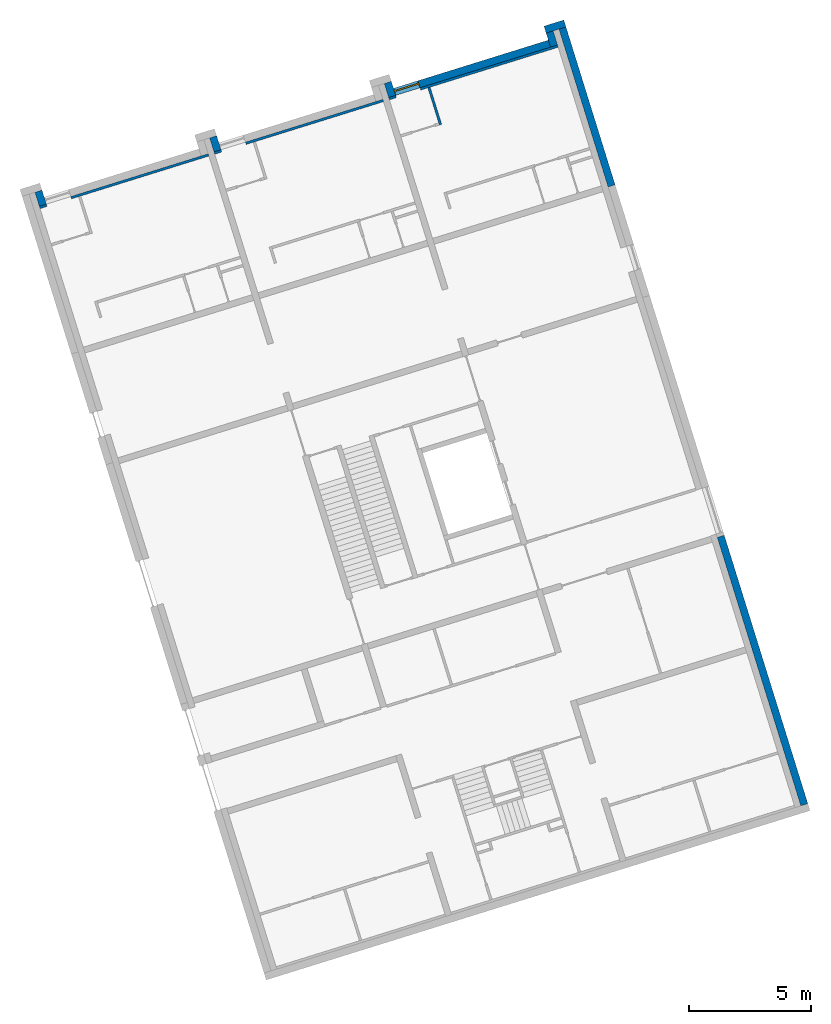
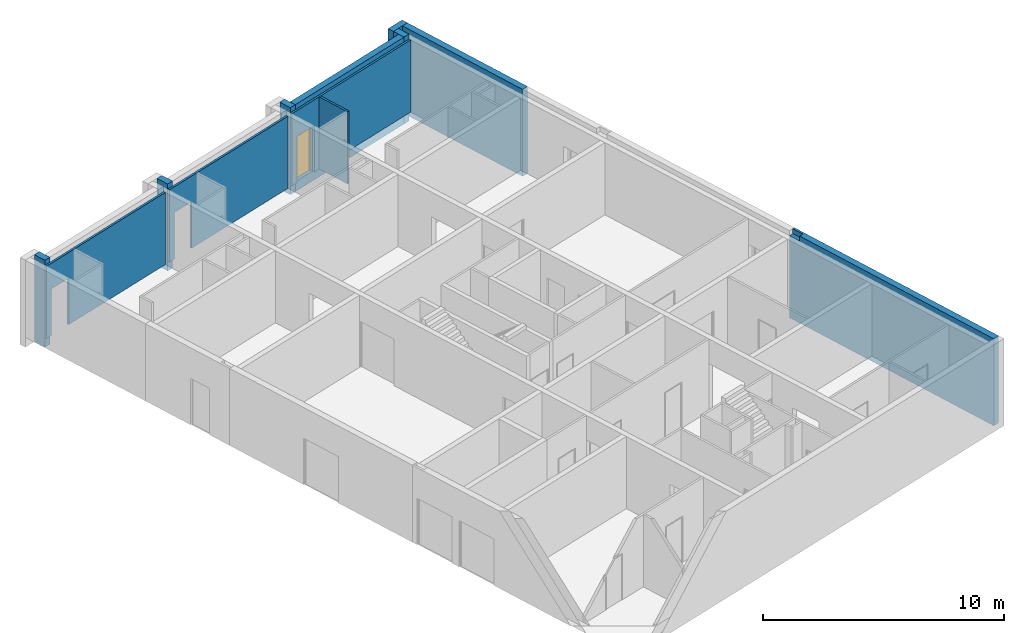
# One storey, part 6 of 10: 12 walls, 1 door, 7 openings.
"""IFC4 building model written with IfcOpenShell, lengths in metres."""

from ifc_helpers import new_model, entity, si_unit, converted_unit, direction, frame, origin, place, context, subcontext, project, spatial, indexed_curve, outline, extrude, polygons, source, transform, mapped, material, constituent, constituent_set, type_object, type_shapes, element, fill, save


model = new_model("IFC4")

# Units and contexts
model_context = context("Model", 3, precision=1e-05, world=origin(), true_north=direction((6.12323399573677e-17, 1.0)))
body_context = subcontext(model_context, "Body", "Model", "MODEL_VIEW")
ifc_project = project(units=[si_unit("LENGTHUNIT", "METRE"), si_unit("AREAUNIT", "SQUARE_METRE"), converted_unit("PLANEANGLEUNIT", "DEGREE", entity("IfcPlaneAngleMeasure", 0.0174532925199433), si_unit("PLANEANGLEUNIT", "RADIAN"), dimensions=[0, 0, 0, 0, 0, 0, 0]), si_unit("VOLUMEUNIT", "CUBIC_METRE")], contexts=[model_context])

# Site, building, storey
site_placement = place(None, frame((13.1347999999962, 11.9886000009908, 0.0), z_axis=(0.0, 0.0, 1.0), x_axis=(0.954770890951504, 0.297342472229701, 0.0)))
site = spatial("IfcSite", under=ifc_project, at=site_placement, Name="Schiehaven", CompositionType="ELEMENT")
building_placement = place(site_placement, origin())
building = spatial("IfcBuilding", under=site, at=building_placement, Name="VORM huis", CompositionType="ELEMENT")
storey_placement = place(building_placement, origin())
storey = spatial("IfcBuildingStorey", under=building, at=storey_placement, Name="00 begane grond", CompositionType="ELEMENT", Elevation=0.0)

# Wall, opening
ifc_material_1 = material(Name="ntb_ntb_ntb", Category="Miscellaneous")
wall_type_1 = type_object("IfcWallType", Name="Basic Wall:21_WA_gevel_binnenspouwwand 100mm_gen", PredefinedType="STANDARD")
wall_1_placement = place(storey_placement, frame((57.6250000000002, 33.0749999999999, 0.0)))
wall_1 = element("IfcWall", 1, at=wall_1_placement, inside=storey, type_object=wall_type_1, material=ifc_material_1, Name="Binnenspouwblad", ObjectType="Wand", PredefinedType="NOTDEFINED", context=body_context, shape_type="Tessellation", body=[
    polygons([(7.24999999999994, -0.0500000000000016, 0.0), (7.24999999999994, -0.0500000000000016, 3.65), (-4.02773066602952e-15, -0.0499999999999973, 3.65), (-4.02773066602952e-15, -0.0499999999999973, 0.0), (0.299999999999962, -0.0499999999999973, 0.0), (0.299999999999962, -0.0499999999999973, 2.34999999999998), (1.34999999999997, -0.0500000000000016, 2.34999999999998), (1.34999999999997, -0.0500000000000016, 0.0), (7.24999999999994, 0.0499999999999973, 3.65), (7.24999999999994, 0.0499999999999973, 0.0), (1.34999999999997, 0.0499999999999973, 0.0), (1.34999999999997, 0.0499999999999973, 2.34999999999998), (0.299999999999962, 0.0500000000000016, 2.34999999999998), (0.299999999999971, 0.0500000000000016, 0.0), (-4.30224119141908e-15, 0.0500000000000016, 0.0), (-4.30224119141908e-15, 0.0500000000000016, 3.65)], [[[1, 2, 3, 4, 5, 6, 7, 8]], [[9, 10, 11, 12, 13, 14, 15, 16]], [[4, 15, 14, 5]], [[2, 1, 10, 9]], [[3, 2, 9, 16]], [[4, 3, 16, 15]], [[13, 6, 5, 14]], [[7, 12, 11, 8]], [[6, 13, 12, 7]], [[10, 1, 8, 11]]], closed=True),
])
opening_1_placement = place(wall_1_placement, origin())
element("IfcOpeningElement", 2, at=opening_1_placement, cuts=wall_1, Name="Woningtoegangsdeur", PredefinedType="OPENING", context=body_context, shape_type="SweptSolid", body=[
    extrude(outline(indexed_curve([(-0.525000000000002, -1.17499999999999), (0.525000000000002, -1.17499999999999), (0.525000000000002, 1.17499999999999), (-0.525000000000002, 1.17499999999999), (-0.525000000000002, -1.17499999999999)], self_intersect=False)), frame((0.824999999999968, -1.474, 1.17499999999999), z_axis=(0.0, 1.0, 0.0), x_axis=(1.0, 0.0, 0.0)), (0.0, 0.0, 1.0), 3.048),
])

wall_2_placement = place(storey_placement, frame((72.3750000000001, 33.0749999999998, 0.0), z_axis=(0.0, 0.0, 1.0), x_axis=(-1.0, 0.0, 0.0)))
wall_2 = element("IfcWall", 3, at=wall_2_placement, inside=storey, type_object=wall_type_1, material=ifc_material_1, Name="Binnenspouwblad", ObjectType="Wand", PredefinedType="NOTDEFINED", context=body_context, shape_type="Tessellation", body=[
    polygons([(7.24999999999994, -0.0500000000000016, 0.0), (7.24999999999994, -0.0500000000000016, 3.65), (-2.558479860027e-15, -0.0499999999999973, 3.65), (-2.558479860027e-15, -0.0499999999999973, 0.0), (5.8999999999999, -0.0500000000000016, 0.0), (5.8999999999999, -0.0500000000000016, 2.34999999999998), (6.9499999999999, -0.0500000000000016, 2.34999999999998), (6.9499999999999, -0.0500000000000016, 0.0), (7.24999999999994, 0.0500000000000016, 3.65), (7.24999999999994, 0.0500000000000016, 0.0), (6.9499999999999, 0.0500000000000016, 0.0), (6.9499999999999, 0.0500000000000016, 2.34999999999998), (5.8999999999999, 0.0500000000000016, 2.34999999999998), (5.8999999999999, 0.0500000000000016, 0.0), (-2.5246038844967e-15, 0.050000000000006, 0.0), (-2.5246038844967e-15, 0.050000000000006, 3.65)], [[[1, 2, 3, 4, 5, 6, 7, 8]], [[9, 10, 11, 12, 13, 14, 15, 16]], [[4, 15, 14, 5]], [[2, 1, 10, 9]], [[3, 2, 9, 16]], [[4, 3, 16, 15]], [[7, 12, 11, 8]], [[13, 6, 5, 14]], [[12, 7, 6, 13]], [[10, 1, 8, 11]]], closed=True),
])
opening_2_placement = place(wall_2_placement, origin())
element("IfcOpeningElement", 4, at=opening_2_placement, cuts=wall_2, Name="Woningtoegangsdeur", PredefinedType="OPENING", context=body_context, shape_type="SweptSolid", body=[
    extrude(outline(indexed_curve([(-1.17499999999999, -0.525000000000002), (1.17499999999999, -0.525000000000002), (1.17499999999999, 0.525000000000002), (-1.17499999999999, 0.525000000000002), (-1.17499999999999, -0.525000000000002)], self_intersect=False)), frame((6.42499999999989, -1.57400000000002, 1.17499999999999), z_axis=(0.0, 1.0, 0.0), x_axis=(0.0, 0.0, -1.0)), (0.0, 0.0, 1.0), 3.048),
])

wall_3_placement = place(storey_placement, frame((72.6250000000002, 33.0749999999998, 0.0)))
wall_3 = element("IfcWall", 5, at=wall_3_placement, inside=storey, type_object=wall_type_1, material=ifc_material_1, Name="Binnenspouwblad", ObjectType="Wand", PredefinedType="NOTDEFINED", context=body_context, shape_type="Tessellation", body=[
    polygons([(7.24999999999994, -0.0499999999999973, 0.0), (7.24999999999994, -0.0499999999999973, 3.65), (4.63520636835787e-15, -0.049999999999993, 3.65), (4.63520636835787e-15, -0.049999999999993, 0.0), (0.299999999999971, -0.049999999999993, 0.0), (0.299999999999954, -0.049999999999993, 2.34999999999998), (1.34999999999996, -0.0499999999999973, 2.34999999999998), (1.34999999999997, -0.0499999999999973, 0.0), (7.24999999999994, 0.050000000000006, 3.65), (7.24999999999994, 0.050000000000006, 0.0), (1.34999999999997, 0.0499999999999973, 0.0), (1.34999999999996, 0.0499999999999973, 2.34999999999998), (0.299999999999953, 0.0500000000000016, 2.34999999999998), (0.299999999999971, 0.0500000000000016, 0.0), (4.36069584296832e-15, 0.0500000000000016, 0.0), (4.36069584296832e-15, 0.0500000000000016, 3.65)], [[[1, 2, 3, 4, 5, 6, 7, 8]], [[9, 10, 11, 12, 13, 14, 15, 16]], [[4, 15, 14, 5]], [[2, 1, 10, 9]], [[3, 2, 9, 16]], [[4, 3, 16, 15]], [[13, 6, 5, 14]], [[7, 12, 11, 8]], [[6, 13, 12, 7]], [[10, 1, 8, 11]]], closed=True),
])
opening_3_placement = place(wall_3_placement, origin())
element("IfcOpeningElement", 6, at=opening_3_placement, cuts=wall_3, Name="Woningtoegangsdeur", PredefinedType="OPENING", context=body_context, shape_type="SweptSolid", body=[
    extrude(outline(indexed_curve([(-0.525000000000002, -1.17499999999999), (0.525000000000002, -1.17499999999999), (0.525000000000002, 1.17499999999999), (-0.525000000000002, 1.17499999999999), (-0.525000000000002, -1.17499999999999)], self_intersect=False)), frame((0.824999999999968, -1.47399999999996, 1.17499999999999), z_axis=(0.0, 1.0, 0.0), x_axis=(1.0, 0.0, 0.0)), (0.0, 0.0, 1.0), 3.048),
])

# Walls
wall_type_2 = type_object("IfcWallType", Name="Basic Wall: 300mm_gen", PredefinedType="STANDARD")
wall_4_placement = place(storey_placement, frame((80.2750000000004, 0.375000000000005, -0.5), z_axis=(0.0, 0.0, 1.0), x_axis=(0.0, 1.0, 0.0)))
element("IfcWall", 7, at=wall_4_placement, inside=storey, type_object=wall_type_2, material=ifc_material_1, Name="Gevelwand", ObjectType="Wand", PredefinedType="NOTDEFINED", context=body_context, shape_type="Tessellation", body=[
    polygons([(3.88578058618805e-16, -0.149999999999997, 0.0), (11.525, -0.149999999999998, 0.0), (11.525, -0.149999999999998, 4.4), (4.44089209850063e-16, -0.149999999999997, 4.4), (11.525, 0.15, 0.0), (6.10622663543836e-16, 0.15, 0.0), (6.10622663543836e-16, 0.15, 0.5), (6.10622663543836e-16, 0.15, 4.15), (2.77555756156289e-16, 0.15, 4.4), (10.95, 0.150000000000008, 4.4), (10.95, 0.150000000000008, 4.15), (11.525, 0.15, 4.15), (11.525, -0.0500000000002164, 4.15), (11.525, -0.0500000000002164, 4.4), (10.95, -0.0500000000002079, 4.4), (10.95, -0.0500000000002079, 4.15)], [[[1, 2, 3, 4]], [[5, 6, 7, 8, 9, 10, 11, 12]], [[2, 1, 6, 5]], [[3, 2, 5, 12, 13, 14]], [[4, 3, 14, 15, 10, 9]], [[11, 16, 13, 12]], [[15, 16, 11, 10]], [[16, 15, 14, 13]], [[1, 4, 9, 8, 7, 6]]], closed=True),
])
wall_5_placement = place(storey_placement, frame((80.275, 26.95, -0.5), z_axis=(0.0, 0.0, 1.0), x_axis=(0.0, 1.0, 0.0)))
element("IfcWall", 8, at=wall_5_placement, inside=storey, type_object=wall_type_2, material=ifc_material_1, Name="Gevelwand", ObjectType="Wand", PredefinedType="NOTDEFINED", context=body_context, shape_type="SweptSolid", body=[
    extrude(outline(indexed_curve([(6.77499999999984, 0.150000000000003), (-2.07973037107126e-15, 0.150000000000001), (2.07973037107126e-15, -0.150000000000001), (6.77499999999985, -0.149999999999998), (6.77499999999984, 0.150000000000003)], self_intersect=False)), origin(), (0.0, 0.0, 1.0), 4.4),
])

# Wall, opening
wall_6_placement = place(storey_placement, frame((57.7750000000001, 33.1249999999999, -0.5), z_axis=(0.0, 0.0, 1.0), x_axis=(0.0, 1.0, 0.0)))
wall_6 = element("IfcWall", 9, at=wall_6_placement, inside=storey, type_object=wall_type_2, material=ifc_material_1, Name="Gevelwand", ObjectType="Wand", PredefinedType="NOTDEFINED", context=body_context, shape_type="Tessellation", body=[
    polygons([(-4.33146851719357e-15, -0.150000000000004, 0.0), (0.300000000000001, -0.150000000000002, 0.0), (0.599999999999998, -0.15, 0.0), (0.599999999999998, -0.15, 4.4), (0.300000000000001, -0.150000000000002, 4.4), (-4.33146851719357e-15, -0.150000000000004, 4.4), (0.0, -0.150000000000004, 2.84999999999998), (0.0, -0.150000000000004, 0.5), (-4.33146851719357e-15, 0.149999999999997, 0.0), (-4.33146851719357e-15, 0.149999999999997, 4.4), (0.599999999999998, 0.150000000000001, 4.4), (0.599999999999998, 0.150000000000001, 0.0)], [[[1, 2, 3, 4, 5, 6, 7, 8]], [[9, 10, 11, 12]], [[3, 2, 1, 9, 12]], [[6, 5, 4, 11, 10]], [[4, 3, 12, 11]], [[1, 8, 7, 6, 10, 9]]], closed=True),
])
opening_4_placement = place(wall_6_placement, origin())
element("IfcOpeningElement", 10, at=opening_4_placement, cuts=wall_6, Name="Woningtoegangsdeur", PredefinedType="OPENING", context=body_context, shape_type="SweptSolid", body=[
    extrude(outline(indexed_curve([(-0.150000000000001, -1.17499999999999), (0.150000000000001, -1.17499999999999), (0.150000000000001, 1.17499999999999), (-0.150000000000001, 1.17499999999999), (-0.150000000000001, -1.17499999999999)], self_intersect=False)), frame((0.150000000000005, -1.2, 1.67499999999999), z_axis=(0.0, 1.0, 0.0), x_axis=(1.0, 0.0, 0.0)), (0.0, 0.0, 1.0), 1.05),
])

wall_7_placement = place(storey_placement, frame((65.2750000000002, 33.1249999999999, -0.5), z_axis=(0.0, 0.0, 1.0), x_axis=(0.0, 1.0, 0.0)))
wall_7 = element("IfcWall", 11, at=wall_7_placement, inside=storey, type_object=wall_type_2, material=ifc_material_1, Name="Gevelwand", ObjectType="Wand", PredefinedType="NOTDEFINED", context=body_context, shape_type="Tessellation", body=[
    polygons([(0.0, -0.150000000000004, 0.0), (0.300000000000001, -0.150000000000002, 0.0), (0.600000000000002, -0.15, 0.0), (0.600000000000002, -0.15, 4.4), (0.300000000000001, -0.150000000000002, 4.4), (0.0, -0.150000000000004, 4.4), (0.0, -0.150000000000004, 2.84999999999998), (0.0, -0.150000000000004, 0.5), (0.0, 0.149999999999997, 0.0), (0.0, 0.149999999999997, 4.4), (0.600000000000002, 0.150000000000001, 4.4), (0.600000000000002, 0.150000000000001, 0.0)], [[[1, 2, 3, 4, 5, 6, 7, 8]], [[9, 10, 11, 12]], [[3, 2, 1, 9, 12]], [[6, 5, 4, 11, 10]], [[4, 3, 12, 11]], [[1, 8, 7, 6, 10, 9]]], closed=True),
])
opening_5_placement = place(wall_7_placement, origin())
element("IfcOpeningElement", 12, at=opening_5_placement, cuts=wall_7, Name="Woningtoegangsdeur", PredefinedType="OPENING", context=body_context, shape_type="SweptSolid", body=[
    extrude(outline(indexed_curve([(-0.150000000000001, -1.17499999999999), (0.150000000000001, -1.17499999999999), (0.150000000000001, 1.17499999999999), (-0.150000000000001, 1.17499999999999), (-0.150000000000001, -1.17499999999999)], self_intersect=False)), frame((0.150000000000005, -1.19999999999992, 1.67499999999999), z_axis=(0.0, 1.0, 0.0), x_axis=(1.0, 0.0, 0.0)), (0.0, 0.0, 1.0), 1.05),
])

wall_8_placement = place(storey_placement, frame((72.7750000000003, 33.1249999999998, -0.5), z_axis=(0.0, 0.0, 1.0), x_axis=(0.0, 1.0, 0.0)))
wall_8 = element("IfcWall", 13, at=wall_8_placement, inside=storey, type_object=wall_type_2, material=ifc_material_1, Name="Gevelwand", ObjectType="Wand", PredefinedType="NOTDEFINED", context=body_context, shape_type="Tessellation", body=[
    polygons([(4.33146851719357e-15, -0.150000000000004, 0.0), (0.300000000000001, -0.150000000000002, 0.0), (0.600000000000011, -0.15, 0.0), (0.600000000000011, -0.15, 4.4), (0.300000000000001, -0.150000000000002, 4.4), (4.33146851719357e-15, -0.150000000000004, 4.4), (0.0, -0.150000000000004, 2.84999999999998), (0.0, -0.150000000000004, 0.5), (4.33146851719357e-15, 0.149999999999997, 0.0), (4.33146851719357e-15, 0.149999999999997, 4.4), (0.600000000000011, 0.150000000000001, 4.4), (0.600000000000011, 0.150000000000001, 0.0)], [[[1, 2, 3, 4, 5, 6, 7, 8]], [[9, 10, 11, 12]], [[3, 2, 1, 9, 12]], [[6, 5, 4, 11, 10]], [[4, 3, 12, 11]], [[1, 8, 7, 6, 10, 9]]], closed=True),
])
opening_6_placement = place(wall_8_placement, origin())
element("IfcOpeningElement", 14, at=opening_6_placement, cuts=wall_8, Name="Woningtoegangsdeur", PredefinedType="OPENING", context=body_context, shape_type="SweptSolid", body=[
    extrude(outline(indexed_curve([(-0.150000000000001, -1.17499999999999), (0.150000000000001, -1.17499999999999), (0.150000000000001, 1.17499999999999), (-0.150000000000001, 1.17499999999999), (-0.150000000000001, -1.17499999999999)], self_intersect=False)), frame((0.150000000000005, -1.19999999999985, 1.67499999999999), z_axis=(0.0, 1.0, 0.0), x_axis=(1.0, 0.0, 0.0)), (0.0, 0.0, 1.0), 1.05),
])

# Wall
wall_9_placement = place(storey_placement, frame((79.7250000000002, 33.7249999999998, -0.5), z_axis=(0.0, 0.0, 1.0), x_axis=(0.0, -1.0, 0.0)))
element("IfcWall", 15, at=wall_9_placement, inside=storey, type_object=wall_type_2, material=ifc_material_1, Name="Gevelwand", ObjectType="Wand", PredefinedType="NOTDEFINED", context=body_context, shape_type="SweptSolid", body=[
    extrude(outline(indexed_curve([(0.60000000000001, 0.150000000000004), (-9.66298299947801e-16, 0.150000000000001), (9.66298299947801e-16, -0.150000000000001), (0.600000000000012, -0.149999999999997), (0.60000000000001, 0.150000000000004)], self_intersect=False)), origin(), (0.0, 0.0, 1.0), 4.4),
])

# Wall, opening, door
wall_10_placement = place(storey_placement, frame((79.5750000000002, 33.2749999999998, -0.5), z_axis=(0.0, 0.0, 1.0), x_axis=(-1.0, 0.0, 0.0)))
wall_10 = element("IfcWall", 16, at=wall_10_placement, inside=storey, type_object=wall_type_2, material=ifc_material_1, Name="Gevelwand", ObjectType="Wand", PredefinedType="NOTDEFINED", context=body_context, shape_type="Tessellation", body=[
    polygons([(5.27465413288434e-15, -0.150000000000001, 0.0), (6.64999999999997, -0.150000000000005, 0.0), (6.64999999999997, -0.150000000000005, 0.5), (5.60000000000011, -0.150000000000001, 0.5), (5.60000000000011, -0.150000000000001, 2.84999999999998), (6.64999999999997, -0.150000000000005, 2.84999999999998), (6.64999999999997, -0.150000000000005, 4.4), (5.27465413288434e-15, -0.150000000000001, 4.4), (6.64999999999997, 0.149999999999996, 0.0), (4.29428107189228e-15, 0.150000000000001, 0.0), (4.29428107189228e-15, 0.150000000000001, 4.4), (6.64999999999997, 0.149999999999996, 4.4), (6.64999999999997, 0.149999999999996, 2.84999999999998), (5.60000000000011, 0.150000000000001, 2.84999999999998), (5.60000000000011, 0.150000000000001, 0.5), (6.64999999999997, 0.149999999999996, 0.5)], [[[1, 2, 3, 4, 5, 6, 7, 8]], [[9, 10, 11, 12, 13, 14, 15, 16]], [[2, 1, 10, 9]], [[8, 7, 12, 11]], [[1, 8, 11, 10]], [[2, 9, 16, 3]], [[15, 4, 3, 16]], [[4, 15, 14, 5]], [[5, 14, 13, 6]], [[12, 7, 6, 13]]], closed=True),
])
opening_7_placement = place(wall_10_placement, frame((6.65000000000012, 0.149999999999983, 0.5)))
opening_7 = element("IfcOpeningElement", 17, at=opening_7_placement, cuts=wall_10, Name="Woningtoegangsdeur", PredefinedType="OPENING", context=body_context, shape_type="SweptSolid", body=[
    extrude(outline(indexed_curve([(2.34999999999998, -5.52923834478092e-32), (2.34999999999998, 1.05), (0.0, 1.05), (0.0, -5.52923834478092e-32), (2.34999999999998, -5.52923834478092e-32)], self_intersect=False)), frame((0.0, 0.0, 0.0), z_axis=(0.0, -1.0, 0.0), x_axis=(0.0, 0.0, 1.0)), (0.0, 0.0, 1.0), 0.3),
])
ifc_material_2 = material(Name="PD_a_buitenwandopeningen", Category="Miscellaneous")
ifc_constituent_1 = constituent(ifc_material_2, Name="PD_a_buitenwandopeningen", Category="Miscellaneous")
ifc_material_3 = material(Name="metaal_aluminium_ntb", Category="Miscellaneous")
ifc_constituent_2 = constituent(ifc_material_3, Name="metaal_aluminium_ntb", Category="Miscellaneous")
ifc_constituent_set_1 = constituent_set(constituents=[ifc_constituent_1, ifc_constituent_2])
ifc_constituent_3 = constituent(ifc_material_2, Name="PD_a_buitenwandopeningen", Category="Miscellaneous")
ifc_constituent_4 = constituent(ifc_material_3, Name="Panel", Category="Miscellaneous")
ifc_constituent_set_2 = constituent_set(constituents=[ifc_constituent_3, ifc_constituent_4])
door_type = type_object("IfcDoorType", Name="31_DO_buitendeur enkel:woningtoegangsdeur", OperationType="REVOLVING", PredefinedType="DOOR", material=ifc_constituent_set_2)
shared_shape = source(origin(), body_context, "Body", "SweptSolid", [
    extrude(outline(indexed_curve([(0.475, -1.16249999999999), (0.525000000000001, -1.16249999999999), (0.525000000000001, 1.18749999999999), (-0.525000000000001, 1.18749999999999), (-0.525000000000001, -1.16249999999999), (-0.475, -1.16249999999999), (-0.475, 1.13749999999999), (0.475, 1.13749999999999), (0.475, -1.16249999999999)], self_intersect=False)), frame((0.525000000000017, 0.230000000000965, 1.16249999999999), z_axis=(0.0, -1.0, 0.0), x_axis=(1.0, 0.0, 0.0)), (0.0, 0.0, 1.0), 0.1),
    extrude(outline(indexed_curve([(-0.475, -0.025), (0.475, -0.025), (0.475, 0.025), (-0.475, 0.025), (-0.475, -0.025)], self_intersect=False)), frame((0.525000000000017, 0.180000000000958, 0.0)), (0.0, 0.0, 1.0), 2.29999999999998),
])
type_shapes(door_type, [shared_shape])
door_placement = place(opening_7_placement, frame((0.0, 0.0, 0.0), z_axis=(0.0, 0.0, 1.0), x_axis=(-1.0, 0.0, 0.0)))
door = element("IfcDoor", 18, at=door_placement, inside=storey, type_object=door_type, material=ifc_constituent_set_1, Name="Woningtoegangsdeur", ObjectType="Deur", OperationType="REVOLVING", OverallHeight=2.34999999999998, OverallWidth=1.05, PredefinedType="DOOR", context=body_context, shape_type="MappedRepresentation", body=[
    mapped(shared_shape, transform((0.0, 0.0, 0.0), scale=1.0)),
])
fill(opening_7, door)

# Walls
wall_11_placement = place(storey_placement, frame((80.4249999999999, 33.8749999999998, -0.5), z_axis=(0.0, 0.0, 1.0), x_axis=(-1.0, 0.0, 0.0)))
element("IfcWall", 19, at=wall_11_placement, inside=storey, type_object=wall_type_2, material=ifc_material_1, Name="Gevelwand", ObjectType="Wand", PredefinedType="NOTDEFINED", context=body_context, shape_type="SweptSolid", body=[
    extrude(outline(indexed_curve([(0.849999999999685, 0.150000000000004), (-6.58211410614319e-16, 0.150000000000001), (6.58211410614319e-16, -0.150000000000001), (0.849999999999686, -0.149999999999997), (0.849999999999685, 0.150000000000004)], self_intersect=False)), origin(), (0.0, 0.0, 1.0), 4.4),
])
wall_type_3 = type_object("IfcWallType", Name="Basic Wall:22_WA_afbouw_binnenwand 100mm_gen", PredefinedType="STANDARD")
wall_12_placement = place(storey_placement, frame((74.3250000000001, 31.4249999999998, 0.0), z_axis=(0.0, 0.0, 1.0), x_axis=(0.0, 1.0, 0.0)))
element("IfcWall", 20, at=wall_12_placement, inside=storey, type_object=wall_type_3, material=ifc_material_1, Name="Binnenwand", ObjectType="Wand", PredefinedType="NOTDEFINED", context=body_context, shape_type="SweptSolid", body=[
    extrude(outline(indexed_curve([(1.6, 0.049999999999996), (-2.31639072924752e-16, 0.0499999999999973), (2.31639072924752e-16, -0.0499999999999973), (1.6, -0.0499999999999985), (1.6, 0.049999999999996)], self_intersect=False)), origin(), (0.0, 0.0, 1.0), 3.65),
])

save(model, "model.ifc")
